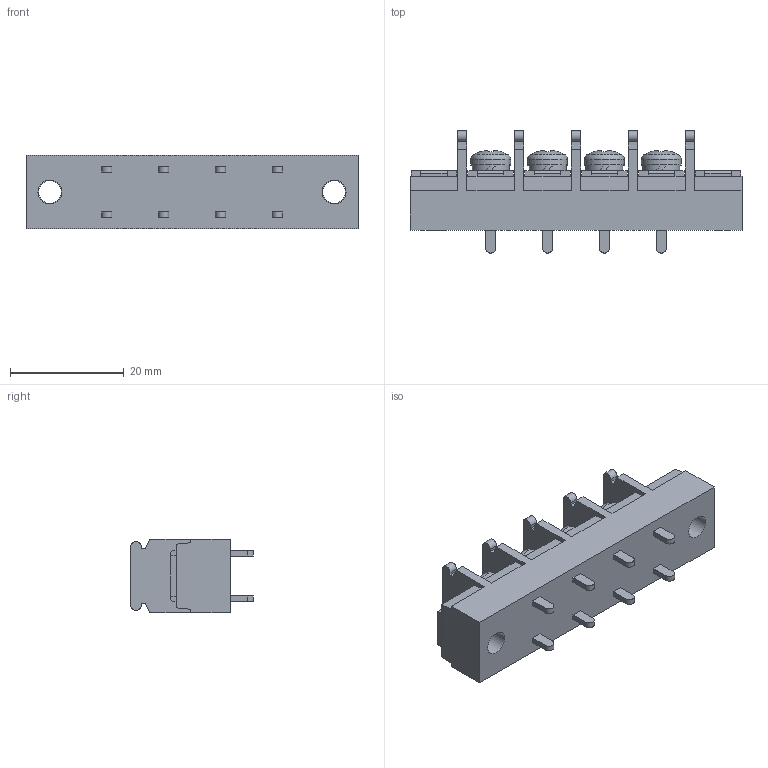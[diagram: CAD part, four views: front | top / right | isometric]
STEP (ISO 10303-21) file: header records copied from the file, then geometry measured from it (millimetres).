
FILE_DESCRIPTION(/* description */ ('Alibre Inc.'),/* implementation_level */ '2;1');
FILE_NAME(/* name */ 'export0',/* time_stamp */ '2015-10-17T19:01:12+09:00',/* author */ (''),/* organization */ (''),/* preprocessor_version */ 'ST-DEVELOPER v14',/* originating_system */ 'Alibre',/* authorisation */ '');
FILE_SCHEMA (('CONFIG_CONTROL_DESIGN'));
Length unit declared in the file: centimetre
Products named in the file (1): ID_1
Bounding box: 58.4 x 21.5 x 13 mm (x, y, z)
Volume: 8351.8 mm3; surface area: 5082.1 mm2
Topology: 1 solids, 17 shells, 712 faces, 1904 edges, 1266 vertices
Faces by surface type: plane 534, bspline 104, cylinder 46, cone 16, torus 8, sphere 4
Full cylindrical faces by diameter (mm): 4 x6, 4.2 x2, 6.5 x4, 7 x4
Entity records: 21445 total; most frequent: CARTESIAN_POINT 4883, ORIENTED_EDGE 3740, DIRECTION 2506, EDGE_CURVE 1870, VECTOR 1426, LINE 1426, VERTEX_POINT 1252, AXIS2_PLACEMENT_3D 797
